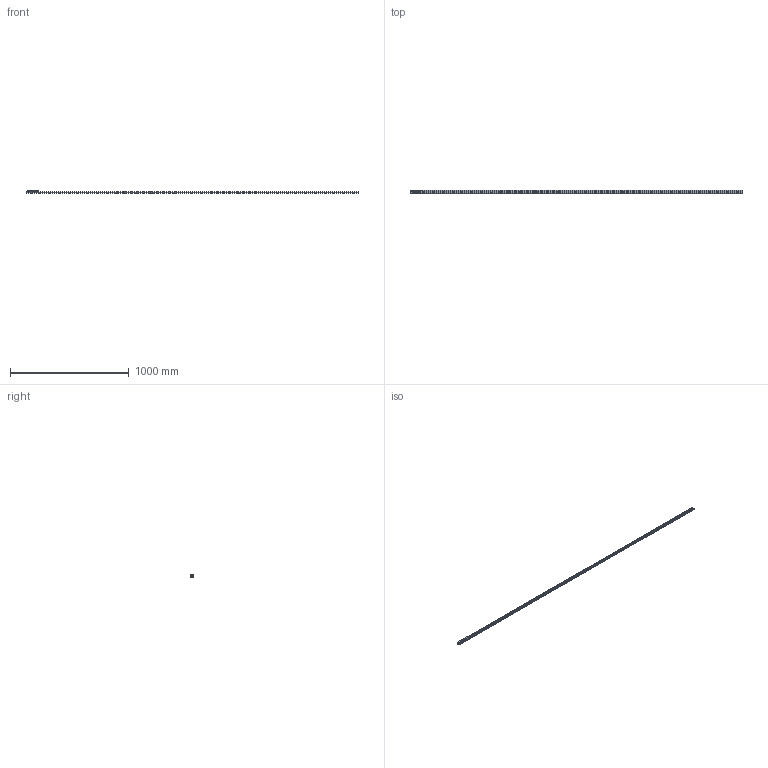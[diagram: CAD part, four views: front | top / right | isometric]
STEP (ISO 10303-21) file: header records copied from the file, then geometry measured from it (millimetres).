
FILE_DESCRIPTION( ( 'STEP AP214' ), '1' );
FILE_NAME( 'p:/temp/worker_21/temp/exporttempdir_5792_129_MrxuO/format_0/TEN26-2800-CEN26-92.stp', '2020-05-08T18:54:03', ( 'License CC BY-ND 4.0' ), ( 'CADENAS' ), ' ', 'PARTsolutions', ' ' );
FILE_SCHEMA( ( 'AUTOMOTIVE_DESIGN { 1 0 10303 214 1 1 1 1 }' ) );
Length unit declared in the file: millimetre
Products named in the file (6): TEN26-2800-CEN26-92; _TEN 26-2800; _CEN26-92_1; _RLN26(11.2_M5); _RLA26(11.2_M5); _LAN-26
Assembly tree (8 placements, depth 2):
  TEN26-2800-CEN26-92
    _TEN 26-2800
    _CEN26-92_1
    _RLN26(11.2_M5)  x2
    _RLA26(11.2_M5)
    _LAN-26  x3
Bounding box: 2800 x 26 x 22 mm (x, y, z)
Volume: 302387.1 mm3; surface area: 256353.2 mm2
Topology: 8 solids, 8 shells, 268 faces, 606 edges, 381 vertices
Faces by surface type: plane 131, cylinder 104, cone 24, bspline 9
Full cylindrical faces by diameter (mm): 2.5 x2, 4.134 x5, 4.5 x3, 5 x6, 6.5 x35, 9.3 x3, 11.2 x6, 11.6 x6, 15.7 x6, 16.7 x6
Entity records: 6728 total; most frequent: CARTESIAN_POINT 960, DIRECTION 922, ORIENTED_EDGE 674, AXIS2_PLACEMENT_3D 397, EDGE_LOOP 372, EDGE_CURVE 337, VERTEX_POINT 267, FACE_OUTER_BOUND 254
